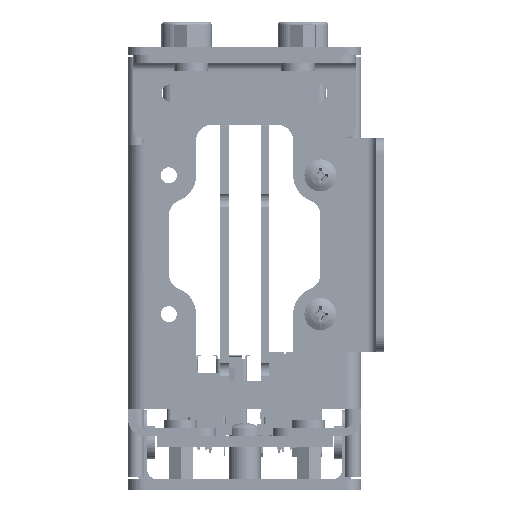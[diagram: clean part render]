
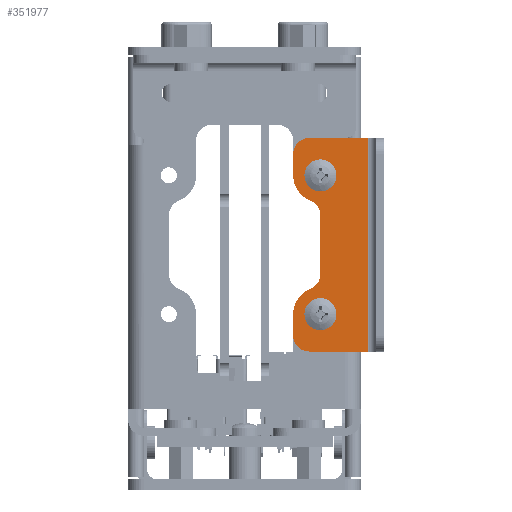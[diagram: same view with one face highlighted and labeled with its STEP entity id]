
A CAD part, left-side view. The second image highlights one B-rep face of the part: STEP entity #351977.
In plain terms, the highlighted planar face has unit normal (-1, 0, 0).
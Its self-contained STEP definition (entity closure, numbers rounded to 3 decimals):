
#50516=CARTESIAN_POINT('',(-225.9,-33.92,-54.135));
#50517=DIRECTION('',(-1.,0.,0.));
#50518=DIRECTION('',(0.,1.,0.));
#50519=AXIS2_PLACEMENT_3D('',#50516,#50517,#50518);
#50521=DIRECTION('',(0.,0.,-1.));
#50522=VECTOR('',#50521,4.004);
#50523=CARTESIAN_POINT('',(-225.9,-30.92,-50.131));
#50524=LINE('',#50523,#50522);
#50525=CARTESIAN_POINT('',(-225.9,-36.03,-50.135));
#50526=DIRECTION('',(-1.,0.,0.));
#50527=DIRECTION('',(0.,0.37,0.929));
#50528=AXIS2_PLACEMENT_3D('',#50525,#50526,#50527);
#50530=CARTESIAN_POINT('',(-225.9,-33.03,-42.6));
#50531=DIRECTION('',(-1.,0.,0.));
#50532=DIRECTION('',(0.,-0.371,-0.929));
#50533=AXIS2_PLACEMENT_3D('',#50530,#50531,#50532);
#50535=DIRECTION('',(0.,0.,-1.));
#50536=VECTOR('',#50535,10.93);
#50537=CARTESIAN_POINT('',(-225.9,-36.03,-31.667));
#50538=LINE('',#50537,#50536);
#50539=CARTESIAN_POINT('',(-225.9,-33.03,-31.67));
#50540=DIRECTION('',(-1.,0.,0.));
#50541=DIRECTION('',(0.,-1.,0.002));
#50542=AXIS2_PLACEMENT_3D('',#50539,#50540,#50541);
#50544=CARTESIAN_POINT('',(-225.9,-36.03,-24.135));
#50545=DIRECTION('',(-1.,0.,0.));
#50546=DIRECTION('',(0.,1.,0.001));
#50547=AXIS2_PLACEMENT_3D('',#50544,#50545,#50546);
#50549=DIRECTION('',(0.,0.,-1.));
#50550=VECTOR('',#50549,3.997);
#50551=CARTESIAN_POINT('',(-225.9,-30.92,-20.135));
#50552=LINE('',#50551,#50550);
#50553=CARTESIAN_POINT('',(-225.9,-33.92,-20.135));
#50554=DIRECTION('',(-1.,0.,0.));
#50555=DIRECTION('',(0.,0.,1.));
#50556=AXIS2_PLACEMENT_3D('',#50553,#50554,#50555);
#50558=DIRECTION('',(0.,1.,0.));
#50559=VECTOR('',#50558,11.);
#50560=CARTESIAN_POINT('',(-225.9,-44.92,-17.135));
#50561=LINE('',#50560,#50559);
#50562=DIRECTION('',(0.,-1.,0.));
#50563=VECTOR('',#50562,11.);
#50564=CARTESIAN_POINT('',(-225.9,-33.92,-57.135));
#50565=LINE('',#50564,#50563);
#50566=CARTESIAN_POINT('',(-225.9,-36.03,-50.135));
#50567=DIRECTION('',(1.,0.,0.));
#50568=DIRECTION('',(0.,0.,-1.));
#50569=AXIS2_PLACEMENT_3D('',#50566,#50567,#50568);
#50571=CARTESIAN_POINT('',(-225.9,-36.03,-50.135));
#50572=DIRECTION('',(1.,0.,0.));
#50573=DIRECTION('',(0.,0.,1.));
#50574=AXIS2_PLACEMENT_3D('',#50571,#50572,#50573);
#50576=CARTESIAN_POINT('',(-225.9,-36.03,-24.135));
#50577=DIRECTION('',(1.,0.,0.));
#50578=DIRECTION('',(0.,0.,-1.));
#50579=AXIS2_PLACEMENT_3D('',#50576,#50577,#50578);
#50581=CARTESIAN_POINT('',(-225.9,-36.03,-24.135));
#50582=DIRECTION('',(1.,0.,0.));
#50583=DIRECTION('',(0.,0.,1.));
#50584=AXIS2_PLACEMENT_3D('',#50581,#50582,#50583);
#50626=DIRECTION('',(0.,0.,1.));
#50627=VECTOR('',#50626,40.);
#50628=CARTESIAN_POINT('',(-225.9,-44.92,-57.135));
#50629=LINE('',#50628,#50627);
#226471=CARTESIAN_POINT('',(-225.9,-44.92,-57.135));
#226473=VERTEX_POINT('',#226471);
#226475=CARTESIAN_POINT('',(-225.9,-44.92,-17.135));
#226477=VERTEX_POINT('',#226475);
#226503=CARTESIAN_POINT('',(-225.9,-30.92,-54.135));
#226504=CARTESIAN_POINT('',(-225.9,-33.92,-57.135));
#226505=VERTEX_POINT('',#226503);
#226506=VERTEX_POINT('',#226504);
#226523=CARTESIAN_POINT('',(-225.9,-33.92,-17.135));
#226524=CARTESIAN_POINT('',(-225.9,-30.92,-20.135));
#226525=VERTEX_POINT('',#226523);
#226526=VERTEX_POINT('',#226524);
#226527=CARTESIAN_POINT('',(-225.9,-30.92,-24.132));
#226528=VERTEX_POINT('',#226527);
#226529=CARTESIAN_POINT('',(-225.9,-30.92,-50.131));
#226530=VERTEX_POINT('',#226529);
#226531=CARTESIAN_POINT('',(-225.9,-34.142,-45.387));
#226532=VERTEX_POINT('',#226531);
#226533=CARTESIAN_POINT('',(-225.9,-34.138,-28.882));
#226534=VERTEX_POINT('',#226533);
#226535=CARTESIAN_POINT('',(-225.9,-36.03,-31.665));
#226536=VERTEX_POINT('',#226535);
#226537=CARTESIAN_POINT('',(-225.9,-36.03,-42.597));
#226538=VERTEX_POINT('',#226537);
#228877=CARTESIAN_POINT('',(-225.9,-36.03,-53.135));
#228878=CARTESIAN_POINT('',(-225.9,-36.03,-47.135));
#228879=VERTEX_POINT('',#228877);
#228880=VERTEX_POINT('',#228878);
#228997=CARTESIAN_POINT('',(-225.9,-36.03,-27.135));
#228998=CARTESIAN_POINT('',(-225.9,-36.03,-21.135));
#228999=VERTEX_POINT('',#228997);
#229000=VERTEX_POINT('',#228998);
#351943=CARTESIAN_POINT('',(-225.9,-39.42,-37.135));
#351944=DIRECTION('',(-1.,0.,0.));
#351945=DIRECTION('',(0.,0.,1.));
#351946=AXIS2_PLACEMENT_3D('',#351943,#351944,#351945);
#351947=PLANE('',#351946);
#351948=ORIENTED_EDGE('',*,*,#351665,.F.);
#351949=ORIENTED_EDGE('',*,*,#351683,.F.);
#351950=ORIENTED_EDGE('',*,*,#351881,.F.);
#351951=ORIENTED_EDGE('',*,*,#351895,.T.);
#351952=ORIENTED_EDGE('',*,*,#351909,.F.);
#351953=ORIENTED_EDGE('',*,*,#351923,.T.);
#351954=ORIENTED_EDGE('',*,*,#351936,.F.);
#351955=ORIENTED_EDGE('',*,*,#351696,.F.);
#351957=ORIENTED_EDGE('',*,*,#351956,.F.);
#351959=ORIENTED_EDGE('',*,*,#351958,.F.);
#351961=ORIENTED_EDGE('',*,*,#351960,.F.);
#351962=ORIENTED_EDGE('',*,*,#351649,.F.);
#351963=EDGE_LOOP('',(#351948,#351949,#351950,#351951,#351952,#351953,#351954,
#351955,#351957,#351959,#351961,#351962));
#351964=FACE_OUTER_BOUND('',#351963,.F.);
#351966=ORIENTED_EDGE('',*,*,#351965,.F.);
#351968=ORIENTED_EDGE('',*,*,#351967,.F.);
#351969=EDGE_LOOP('',(#351966,#351968));
#351970=FACE_BOUND('',#351969,.F.);
#351972=ORIENTED_EDGE('',*,*,#351971,.F.);
#351974=ORIENTED_EDGE('',*,*,#351973,.F.);
#351975=EDGE_LOOP('',(#351972,#351974));
#351976=FACE_BOUND('',#351975,.F.);
#50520=CIRCLE('',#50519,3.);
#50529=CIRCLE('',#50528,5.11);
#50534=CIRCLE('',#50533,3.);
#50543=CIRCLE('',#50542,3.);
#50548=CIRCLE('',#50547,5.11);
#50557=CIRCLE('',#50556,3.);
#50570=CIRCLE('',#50569,3.);
#50575=CIRCLE('',#50574,3.);
#50580=CIRCLE('',#50579,3.);
#50585=CIRCLE('',#50584,3.);
#351649=EDGE_CURVE('',#226506,#226473,#50565,.T.);
#351665=EDGE_CURVE('',#226505,#226506,#50520,.T.);
#351683=EDGE_CURVE('',#226530,#226505,#50524,.T.);
#351696=EDGE_CURVE('',#226526,#226528,#50552,.T.);
#351881=EDGE_CURVE('',#226532,#226530,#50529,.T.);
#351895=EDGE_CURVE('',#226532,#226538,#50534,.T.);
#351909=EDGE_CURVE('',#226536,#226538,#50538,.T.);
#351923=EDGE_CURVE('',#226536,#226534,#50543,.T.);
#351936=EDGE_CURVE('',#226528,#226534,#50548,.T.);
#351956=EDGE_CURVE('',#226525,#226526,#50557,.T.);
#351958=EDGE_CURVE('',#226477,#226525,#50561,.T.);
#351960=EDGE_CURVE('',#226473,#226477,#50629,.T.);
#351965=EDGE_CURVE('',#228879,#228880,#50570,.T.);
#351967=EDGE_CURVE('',#228880,#228879,#50575,.T.);
#351971=EDGE_CURVE('',#228999,#229000,#50580,.T.);
#351973=EDGE_CURVE('',#229000,#228999,#50585,.T.);
#351977=ADVANCED_FACE('',(#351964,#351970,#351976),#351947,.T.);
